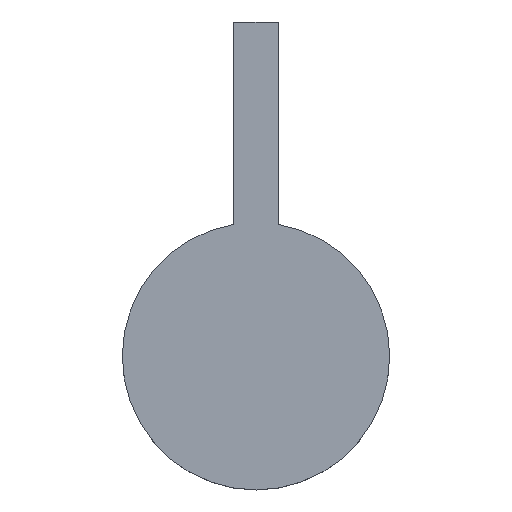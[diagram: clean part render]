
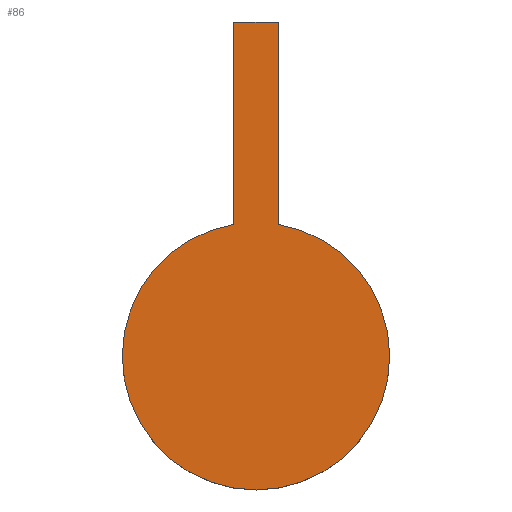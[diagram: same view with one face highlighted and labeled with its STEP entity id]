
A CAD part, top view. The second image highlights one B-rep face of the part: STEP entity #86.
In plain terms, the highlighted planar face has unit normal (0, 0, 1).
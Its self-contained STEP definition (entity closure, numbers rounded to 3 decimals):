
#86 = ADVANCED_FACE( '', ( #177 ), #178, .F. );
#177 = FACE_OUTER_BOUND( '', #260, .T. );
#178 = PLANE( '', #261 );
#260 = EDGE_LOOP( '', ( #419, #420, #421, #422 ) );
#261 = AXIS2_PLACEMENT_3D( '', #423, #424, #425 );
#419 = ORIENTED_EDGE( '', *, *, #474, .F. );
#420 = ORIENTED_EDGE( '', *, *, #465, .F. );
#421 = ORIENTED_EDGE( '', *, *, #492, .F. );
#422 = ORIENTED_EDGE( '', *, *, #452, .F. );
#423 = CARTESIAN_POINT( '', ( -150., 150., 0. ) );
#424 = DIRECTION( '', ( 0., 0., -1. ) );
#425 = DIRECTION( '', ( 0., 1., 0. ) );
#452 = EDGE_CURVE( '', #525, #527, #528, .T. );
#465 = EDGE_CURVE( '', #548, #549, #550, .T. );
#474 = EDGE_CURVE( '', #549, #525, #563, .T. );
#492 = EDGE_CURVE( '', #527, #548, #584, .T. );
#525 = VERTEX_POINT( '', #620 );
#527 = VERTEX_POINT( '', #623 );
#528 = LINE( '', #624, #625 );
#548 = VERTEX_POINT( '', #648 );
#549 = VERTEX_POINT( '', #649 );
#550 = CIRCLE( '', #650, 60. );
#563 = LINE( '', #671, #672 );
#584 = LINE( '', #701, #702 );
#620 = CARTESIAN_POINT( '', ( -10., 150., 0. ) );
#623 = CARTESIAN_POINT( '', ( 10., 150., 0. ) );
#624 = CARTESIAN_POINT( '', ( -150., 150., 0. ) );
#625 = VECTOR( '', #734, 1000. );
#648 = CARTESIAN_POINT( '', ( 10., 59.161, 0. ) );
#649 = CARTESIAN_POINT( '', ( -10., 59.161, 0. ) );
#650 = AXIS2_PLACEMENT_3D( '', #753, #754, #755 );
#671 = CARTESIAN_POINT( '', ( -10., 0., 0. ) );
#672 = VECTOR( '', #764, 1000. );
#701 = CARTESIAN_POINT( '', ( 10., 150., 0. ) );
#702 = VECTOR( '', #779, 1000. );
#734 = DIRECTION( '', ( 1., 0., 0. ) );
#753 = CARTESIAN_POINT( '', ( 0., 0., 0. ) );
#754 = DIRECTION( '', ( 0., 0., -1. ) );
#755 = DIRECTION( '', ( -1., 0., 0. ) );
#764 = DIRECTION( '', ( 0., 1., 0. ) );
#779 = DIRECTION( '', ( 0., -1., 0. ) );
